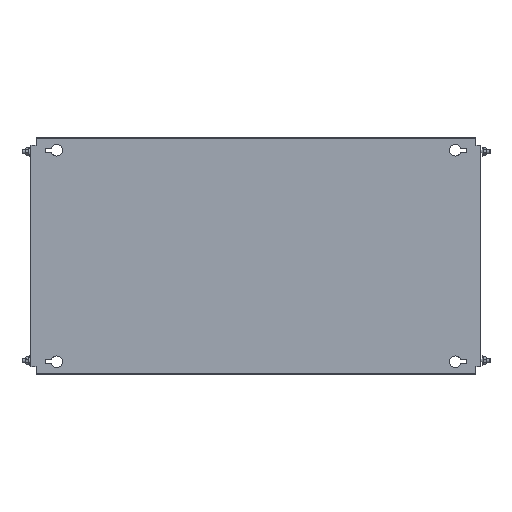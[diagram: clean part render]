
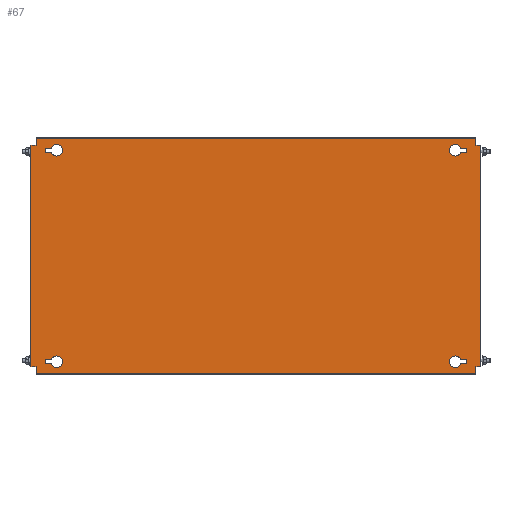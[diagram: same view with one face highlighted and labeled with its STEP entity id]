
A CAD part, top view. The second image highlights one B-rep face of the part: STEP entity #67.
In plain terms, the highlighted planar face has unit normal (0, 0, 1).
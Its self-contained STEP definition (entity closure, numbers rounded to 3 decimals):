
#67 = ADVANCED_FACE('',(#68,#103,#138,#300,#335),#370,.T.);
#68 = FACE_BOUND('',#69,.T.);
#69 = EDGE_LOOP('',(#70,#80,#88,#96));
#70 = ORIENTED_EDGE('',*,*,#71,.T.);
#71 = EDGE_CURVE('',#72,#74,#76,.T.);
#72 = VERTEX_POINT('',#73);
#73 = CARTESIAN_POINT('',(318.393,167.75,2.));
#74 = VERTEX_POINT('',#75);
#75 = CARTESIAN_POINT('',(328.,167.75,2.));
#76 = LINE('',#77,#78);
#77 = CARTESIAN_POINT('',(327.,167.75,2.));
#78 = VECTOR('',#79,1.);
#79 = DIRECTION('',(1.,0.,0.));
#80 = ORIENTED_EDGE('',*,*,#81,.T.);
#81 = EDGE_CURVE('',#74,#82,#84,.T.);
#82 = VERTEX_POINT('',#83);
#83 = CARTESIAN_POINT('',(328.,161.25,2.));
#84 = LINE('',#85,#86);
#85 = CARTESIAN_POINT('',(328.,167.75,2.));
#86 = VECTOR('',#87,1.);
#87 = DIRECTION('',(0.,-1.,0.));
#88 = ORIENTED_EDGE('',*,*,#89,.T.);
#89 = EDGE_CURVE('',#82,#90,#92,.T.);
#90 = VERTEX_POINT('',#91);
#91 = CARTESIAN_POINT('',(318.393,161.25,2.));
#92 = LINE('',#93,#94);
#93 = CARTESIAN_POINT('',(327.,161.25,2.));
#94 = VECTOR('',#95,1.);
#95 = DIRECTION('',(-1.,0.,0.));
#96 = ORIENTED_EDGE('',*,*,#97,.T.);
#97 = EDGE_CURVE('',#90,#72,#98,.T.);
#98 = CIRCLE('',#99,9.);
#99 = AXIS2_PLACEMENT_3D('',#100,#101,#102);
#100 = CARTESIAN_POINT('',(310.,164.5,2.));
#101 = DIRECTION('',(0.,0.,-1.));
#102 = DIRECTION('',(1.,0.,0.));
#103 = FACE_BOUND('',#104,.T.);
#104 = EDGE_LOOP('',(#105,#115,#123,#131));
#105 = ORIENTED_EDGE('',*,*,#106,.T.);
#106 = EDGE_CURVE('',#107,#109,#111,.T.);
#107 = VERTEX_POINT('',#108);
#108 = CARTESIAN_POINT('',(-318.393,-167.75,2.));
#109 = VERTEX_POINT('',#110);
#110 = CARTESIAN_POINT('',(-328.,-167.75,2.));
#111 = LINE('',#112,#113);
#112 = CARTESIAN_POINT('',(-327.,-167.75,2.));
#113 = VECTOR('',#114,1.);
#114 = DIRECTION('',(-1.,0.,0.));
#115 = ORIENTED_EDGE('',*,*,#116,.T.);
#116 = EDGE_CURVE('',#109,#117,#119,.T.);
#117 = VERTEX_POINT('',#118);
#118 = CARTESIAN_POINT('',(-328.,-161.25,2.));
#119 = LINE('',#120,#121);
#120 = CARTESIAN_POINT('',(-328.,-167.75,2.));
#121 = VECTOR('',#122,1.);
#122 = DIRECTION('',(0.,1.,0.));
#123 = ORIENTED_EDGE('',*,*,#124,.T.);
#124 = EDGE_CURVE('',#117,#125,#127,.T.);
#125 = VERTEX_POINT('',#126);
#126 = CARTESIAN_POINT('',(-318.393,-161.25,2.));
#127 = LINE('',#128,#129);
#128 = CARTESIAN_POINT('',(-327.,-161.25,2.));
#129 = VECTOR('',#130,1.);
#130 = DIRECTION('',(1.,-0.,-0.));
#131 = ORIENTED_EDGE('',*,*,#132,.T.);
#132 = EDGE_CURVE('',#125,#107,#133,.T.);
#133 = CIRCLE('',#134,9.);
#134 = AXIS2_PLACEMENT_3D('',#135,#136,#137);
#135 = CARTESIAN_POINT('',(-310.,-164.5,2.));
#136 = DIRECTION('',(0.,0.,-1.));
#137 = DIRECTION('',(-1.,0.,0.));
#138 = FACE_BOUND('',#139,.T.);
#139 = EDGE_LOOP('',(#140,#150,#158,#166,#174,#182,#190,#198,#206,#214,
    #222,#230,#238,#246,#254,#262,#270,#278,#286,#294));
#140 = ORIENTED_EDGE('',*,*,#141,.F.);
#141 = EDGE_CURVE('',#142,#144,#146,.T.);
#142 = VERTEX_POINT('',#143);
#143 = CARTESIAN_POINT('',(-347.4,172.5,2.));
#144 = VERTEX_POINT('',#145);
#145 = CARTESIAN_POINT('',(-342.,172.5,2.));
#146 = LINE('',#147,#148);
#147 = CARTESIAN_POINT('',(-348.,172.5,2.));
#148 = VECTOR('',#149,1.);
#149 = DIRECTION('',(1.,0.,-0.));
#150 = ORIENTED_EDGE('',*,*,#151,.T.);
#151 = EDGE_CURVE('',#142,#152,#154,.T.);
#152 = VERTEX_POINT('',#153);
#153 = CARTESIAN_POINT('',(-350.,172.5,2.));
#154 = LINE('',#155,#156);
#155 = CARTESIAN_POINT('',(-347.4,172.5,2.));
#156 = VECTOR('',#157,1.);
#157 = DIRECTION('',(-1.,0.,0.));
#158 = ORIENTED_EDGE('',*,*,#159,.F.);
#159 = EDGE_CURVE('',#160,#152,#162,.T.);
#160 = VERTEX_POINT('',#161);
#161 = CARTESIAN_POINT('',(-350.,-172.5,2.));
#162 = LINE('',#163,#164);
#163 = CARTESIAN_POINT('',(-350.,-182.5,2.));
#164 = VECTOR('',#165,1.);
#165 = DIRECTION('',(0.,1.,-0.));
#166 = ORIENTED_EDGE('',*,*,#167,.F.);
#167 = EDGE_CURVE('',#168,#160,#170,.T.);
#168 = VERTEX_POINT('',#169);
#169 = CARTESIAN_POINT('',(-347.4,-172.5,2.));
#170 = LINE('',#171,#172);
#171 = CARTESIAN_POINT('',(-342.,-172.5,2.));
#172 = VECTOR('',#173,1.);
#173 = DIRECTION('',(-1.,-0.,-0.));
#174 = ORIENTED_EDGE('',*,*,#175,.T.);
#175 = EDGE_CURVE('',#168,#176,#178,.T.);
#176 = VERTEX_POINT('',#177);
#177 = CARTESIAN_POINT('',(-342.,-172.5,2.));
#178 = LINE('',#179,#180);
#179 = CARTESIAN_POINT('',(-348.,-172.5,2.));
#180 = VECTOR('',#181,1.);
#181 = DIRECTION('',(1.,0.,-0.));
#182 = ORIENTED_EDGE('',*,*,#183,.T.);
#183 = EDGE_CURVE('',#176,#184,#186,.T.);
#184 = VERTEX_POINT('',#185);
#185 = CARTESIAN_POINT('',(-342.,-181.9,2.));
#186 = LINE('',#187,#188);
#187 = CARTESIAN_POINT('',(-342.,182.5,2.));
#188 = VECTOR('',#189,1.);
#189 = DIRECTION('',(0.,-1.,0.));
#190 = ORIENTED_EDGE('',*,*,#191,.T.);
#191 = EDGE_CURVE('',#184,#192,#194,.T.);
#192 = VERTEX_POINT('',#193);
#193 = CARTESIAN_POINT('',(-342.,-182.5,2.));
#194 = LINE('',#195,#196);
#195 = CARTESIAN_POINT('',(-342.,-181.9,2.));
#196 = VECTOR('',#197,1.);
#197 = DIRECTION('',(-0.,-1.,-0.));
#198 = ORIENTED_EDGE('',*,*,#199,.T.);
#199 = EDGE_CURVE('',#192,#200,#202,.T.);
#200 = VERTEX_POINT('',#201);
#201 = CARTESIAN_POINT('',(342.,-182.5,2.));
#202 = LINE('',#203,#204);
#203 = CARTESIAN_POINT('',(342.,-182.5,2.));
#204 = VECTOR('',#205,1.);
#205 = DIRECTION('',(1.,0.,0.));
#206 = ORIENTED_EDGE('',*,*,#207,.F.);
#207 = EDGE_CURVE('',#208,#200,#210,.T.);
#208 = VERTEX_POINT('',#209);
#209 = CARTESIAN_POINT('',(342.,-181.9,2.));
#210 = LINE('',#211,#212);
#211 = CARTESIAN_POINT('',(342.,-182.5,2.));
#212 = VECTOR('',#213,1.);
#213 = DIRECTION('',(0.,-1.,0.));
#214 = ORIENTED_EDGE('',*,*,#215,.T.);
#215 = EDGE_CURVE('',#208,#216,#218,.T.);
#216 = VERTEX_POINT('',#217);
#217 = CARTESIAN_POINT('',(342.,-172.5,2.));
#218 = LINE('',#219,#220);
#219 = CARTESIAN_POINT('',(342.,182.5,2.));
#220 = VECTOR('',#221,1.);
#221 = DIRECTION('',(0.,1.,-0.));
#222 = ORIENTED_EDGE('',*,*,#223,.F.);
#223 = EDGE_CURVE('',#224,#216,#226,.T.);
#224 = VERTEX_POINT('',#225);
#225 = CARTESIAN_POINT('',(347.4,-172.5,2.));
#226 = LINE('',#227,#228);
#227 = CARTESIAN_POINT('',(348.,-172.5,2.));
#228 = VECTOR('',#229,1.);
#229 = DIRECTION('',(-1.,0.,-0.));
#230 = ORIENTED_EDGE('',*,*,#231,.T.);
#231 = EDGE_CURVE('',#224,#232,#234,.T.);
#232 = VERTEX_POINT('',#233);
#233 = CARTESIAN_POINT('',(350.,-172.5,2.));
#234 = LINE('',#235,#236);
#235 = CARTESIAN_POINT('',(347.4,-172.5,2.));
#236 = VECTOR('',#237,1.);
#237 = DIRECTION('',(1.,-0.,0.));
#238 = ORIENTED_EDGE('',*,*,#239,.F.);
#239 = EDGE_CURVE('',#240,#232,#242,.T.);
#240 = VERTEX_POINT('',#241);
#241 = CARTESIAN_POINT('',(350.,172.5,2.));
#242 = LINE('',#243,#244);
#243 = CARTESIAN_POINT('',(350.,-182.5,2.));
#244 = VECTOR('',#245,1.);
#245 = DIRECTION('',(0.,-1.,-0.));
#246 = ORIENTED_EDGE('',*,*,#247,.F.);
#247 = EDGE_CURVE('',#248,#240,#250,.T.);
#248 = VERTEX_POINT('',#249);
#249 = CARTESIAN_POINT('',(347.4,172.5,2.));
#250 = LINE('',#251,#252);
#251 = CARTESIAN_POINT('',(-342.,172.5,2.));
#252 = VECTOR('',#253,1.);
#253 = DIRECTION('',(1.,-0.,0.));
#254 = ORIENTED_EDGE('',*,*,#255,.T.);
#255 = EDGE_CURVE('',#248,#256,#258,.T.);
#256 = VERTEX_POINT('',#257);
#257 = CARTESIAN_POINT('',(342.,172.5,2.));
#258 = LINE('',#259,#260);
#259 = CARTESIAN_POINT('',(348.,172.5,2.));
#260 = VECTOR('',#261,1.);
#261 = DIRECTION('',(-1.,0.,-0.));
#262 = ORIENTED_EDGE('',*,*,#263,.T.);
#263 = EDGE_CURVE('',#256,#264,#266,.T.);
#264 = VERTEX_POINT('',#265);
#265 = CARTESIAN_POINT('',(342.,181.9,2.));
#266 = LINE('',#267,#268);
#267 = CARTESIAN_POINT('',(342.,182.5,2.));
#268 = VECTOR('',#269,1.);
#269 = DIRECTION('',(0.,1.,-0.));
#270 = ORIENTED_EDGE('',*,*,#271,.T.);
#271 = EDGE_CURVE('',#264,#272,#274,.T.);
#272 = VERTEX_POINT('',#273);
#273 = CARTESIAN_POINT('',(342.,182.5,2.));
#274 = LINE('',#275,#276);
#275 = CARTESIAN_POINT('',(342.,181.9,2.));
#276 = VECTOR('',#277,1.);
#277 = DIRECTION('',(-0.,1.,-0.));
#278 = ORIENTED_EDGE('',*,*,#279,.T.);
#279 = EDGE_CURVE('',#272,#280,#282,.T.);
#280 = VERTEX_POINT('',#281);
#281 = CARTESIAN_POINT('',(-342.,182.5,2.));
#282 = LINE('',#283,#284);
#283 = CARTESIAN_POINT('',(-342.,182.5,2.));
#284 = VECTOR('',#285,1.);
#285 = DIRECTION('',(-1.,0.,0.));
#286 = ORIENTED_EDGE('',*,*,#287,.F.);
#287 = EDGE_CURVE('',#288,#280,#290,.T.);
#288 = VERTEX_POINT('',#289);
#289 = CARTESIAN_POINT('',(-342.,181.9,2.));
#290 = LINE('',#291,#292);
#291 = CARTESIAN_POINT('',(-342.,-182.5,2.));
#292 = VECTOR('',#293,1.);
#293 = DIRECTION('',(0.,1.,-0.));
#294 = ORIENTED_EDGE('',*,*,#295,.T.);
#295 = EDGE_CURVE('',#288,#144,#296,.T.);
#296 = LINE('',#297,#298);
#297 = CARTESIAN_POINT('',(-342.,182.5,2.));
#298 = VECTOR('',#299,1.);
#299 = DIRECTION('',(0.,-1.,0.));
#300 = FACE_BOUND('',#301,.T.);
#301 = EDGE_LOOP('',(#302,#312,#320,#328));
#302 = ORIENTED_EDGE('',*,*,#303,.F.);
#303 = EDGE_CURVE('',#304,#306,#308,.T.);
#304 = VERTEX_POINT('',#305);
#305 = CARTESIAN_POINT('',(328.,-161.25,2.));
#306 = VERTEX_POINT('',#307);
#307 = CARTESIAN_POINT('',(318.393,-161.25,2.));
#308 = LINE('',#309,#310);
#309 = CARTESIAN_POINT('',(318.393,-161.25,2.));
#310 = VECTOR('',#311,1.);
#311 = DIRECTION('',(-1.,0.,0.));
#312 = ORIENTED_EDGE('',*,*,#313,.F.);
#313 = EDGE_CURVE('',#314,#304,#316,.T.);
#314 = VERTEX_POINT('',#315);
#315 = CARTESIAN_POINT('',(328.,-167.75,2.));
#316 = LINE('',#317,#318);
#317 = CARTESIAN_POINT('',(328.,-161.25,2.));
#318 = VECTOR('',#319,1.);
#319 = DIRECTION('',(0.,1.,0.));
#320 = ORIENTED_EDGE('',*,*,#321,.F.);
#321 = EDGE_CURVE('',#322,#314,#324,.T.);
#322 = VERTEX_POINT('',#323);
#323 = CARTESIAN_POINT('',(318.393,-167.75,2.));
#324 = LINE('',#325,#326);
#325 = CARTESIAN_POINT('',(327.,-167.75,2.));
#326 = VECTOR('',#327,1.);
#327 = DIRECTION('',(1.,0.,0.));
#328 = ORIENTED_EDGE('',*,*,#329,.F.);
#329 = EDGE_CURVE('',#306,#322,#330,.T.);
#330 = CIRCLE('',#331,9.);
#331 = AXIS2_PLACEMENT_3D('',#332,#333,#334);
#332 = CARTESIAN_POINT('',(310.,-164.5,2.));
#333 = DIRECTION('',(0.,-0.,1.));
#334 = DIRECTION('',(1.,0.,0.));
#335 = FACE_BOUND('',#336,.T.);
#336 = EDGE_LOOP('',(#337,#347,#355,#363));
#337 = ORIENTED_EDGE('',*,*,#338,.F.);
#338 = EDGE_CURVE('',#339,#341,#343,.T.);
#339 = VERTEX_POINT('',#340);
#340 = CARTESIAN_POINT('',(-328.,161.25,2.));
#341 = VERTEX_POINT('',#342);
#342 = CARTESIAN_POINT('',(-318.393,161.25,2.));
#343 = LINE('',#344,#345);
#344 = CARTESIAN_POINT('',(-318.393,161.25,2.));
#345 = VECTOR('',#346,1.);
#346 = DIRECTION('',(1.,0.,0.));
#347 = ORIENTED_EDGE('',*,*,#348,.F.);
#348 = EDGE_CURVE('',#349,#339,#351,.T.);
#349 = VERTEX_POINT('',#350);
#350 = CARTESIAN_POINT('',(-328.,167.75,2.));
#351 = LINE('',#352,#353);
#352 = CARTESIAN_POINT('',(-328.,161.25,2.));
#353 = VECTOR('',#354,1.);
#354 = DIRECTION('',(0.,-1.,0.));
#355 = ORIENTED_EDGE('',*,*,#356,.F.);
#356 = EDGE_CURVE('',#357,#349,#359,.T.);
#357 = VERTEX_POINT('',#358);
#358 = CARTESIAN_POINT('',(-318.393,167.75,2.));
#359 = LINE('',#360,#361);
#360 = CARTESIAN_POINT('',(-327.,167.75,2.));
#361 = VECTOR('',#362,1.);
#362 = DIRECTION('',(-1.,0.,0.));
#363 = ORIENTED_EDGE('',*,*,#364,.F.);
#364 = EDGE_CURVE('',#341,#357,#365,.T.);
#365 = CIRCLE('',#366,9.);
#366 = AXIS2_PLACEMENT_3D('',#367,#368,#369);
#367 = CARTESIAN_POINT('',(-310.,164.5,2.));
#368 = DIRECTION('',(0.,-0.,1.));
#369 = DIRECTION('',(-1.,0.,0.));
#370 = PLANE('',#371);
#371 = AXIS2_PLACEMENT_3D('',#372,#373,#374);
#372 = CARTESIAN_POINT('',(-342.,-182.5,2.));
#373 = DIRECTION('',(-0.,0.,1.));
#374 = DIRECTION('',(1.,0.,0.));
